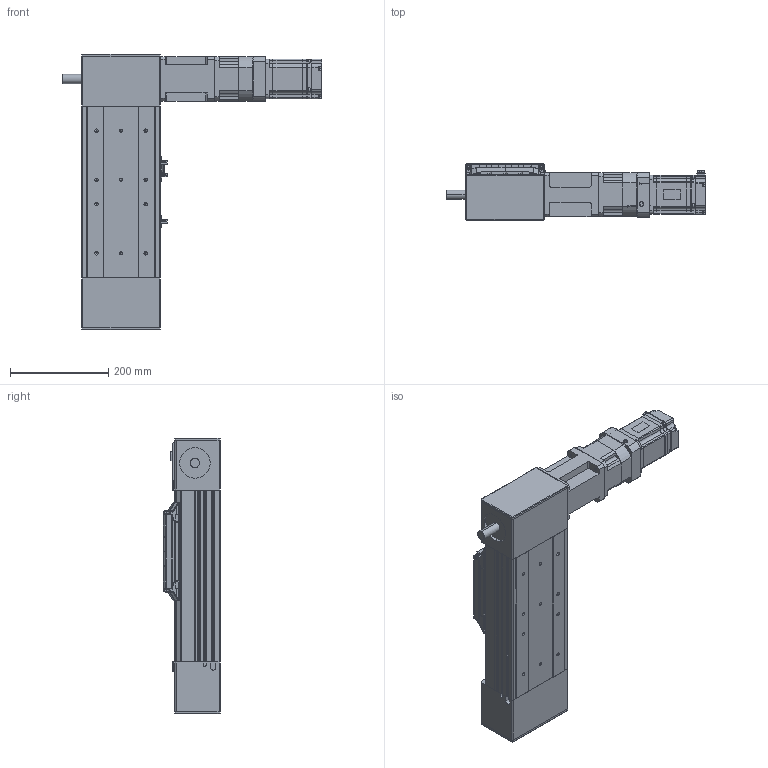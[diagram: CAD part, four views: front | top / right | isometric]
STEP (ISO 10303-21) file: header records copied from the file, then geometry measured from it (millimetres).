
FILE_DESCRIPTION (( 'STEP AP203' ), '1' );
FILE_NAME ('PCB160SDN-0000-ST100-75NR00-N-I3R.STEP', '2015-10-22T04:14:37', ( '' ), ( '' ), 'SwSTEP 2.0', 'SolidWorks 2012', '' );
FILE_SCHEMA (( 'CONFIG_CONTROL_DESIGN' ));
Products named in the file (14): PCB160SDN-0000-ST100-75NR00-N-I3R; sgmjv_08a_a21; jc48c; PCB160-Carrier Assy; PGX90-H-1_3; MOTOR BRACKET 750W; EE_SX672; PCB160-Carrier; PCB160-Carrier END COVER; PCB160-Carrier UPPER COVER; PCB160-Sensor Dog; PCB160-Idler Pulley Block; PCB160-100ST BASE; PCB160-Drive Pulley Block D
Assembly tree (16 placements, depth 3):
  PCB160SDN-0000-ST100-75NR00-N-I3R
    PCB160-100ST BASE
    PCB160-Drive Pulley Block D
    PCB160-Idler Pulley Block
    PCB160-Carrier Assy
      PCB160-Carrier
      PCB160-Sensor Dog
      PCB160-Carrier END COVER  x2
      PCB160-Carrier UPPER COVER
    EE_SX672  x3
    MOTOR BRACKET 750W
    PGX90-H-1_3
    sgmjv_08a_a21
    jc48c
Bounding box: 528.6 x 116 x 560 mm (x, y, z)
Volume: 9553466.9 mm3; surface area: 1108968.9 mm2
Topology: 38 solids, 38 shells, 3250 faces, 8637 edges, 5512 vertices
Faces by surface type: plane 1834, cylinder 1024, cone 215, bspline 105, torus 36, sphere 36
Entity records: 91693 total; most frequent: CARTESIAN_POINT 21605, ORIENTED_EDGE 14538, DIRECTION 13927, EDGE_CURVE 7269, LINE 4743, VECTOR 4743, VERTEX_POINT 4700, AXIS2_PLACEMENT_3D 4592
